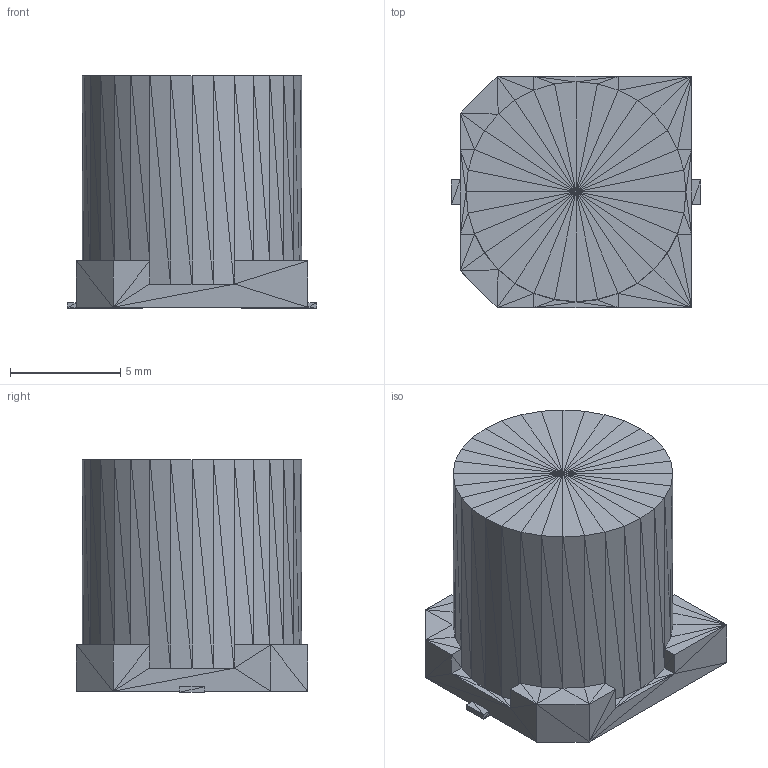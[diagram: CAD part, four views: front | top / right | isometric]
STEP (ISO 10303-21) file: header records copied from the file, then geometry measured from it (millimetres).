
FILE_DESCRIPTION(('STEP AP214'),'1');
FILE_NAME('SM_RADIAL_10BMM','2018-08-04T05:23:23',(''),(''),'','','');
FILE_SCHEMA(('AUTOMOTIVE_DESIGN'));
Length unit declared in the file: millimetre
Products named in the file (1): product
Bounding box: 11.3 x 10.49 x 10.54 mm (x, y, z)
Surface area: 583.5 mm2 (no closed solid volume)
Topology: 0 solids, 230 shells, 230 faces, 690 edges, 690 vertices
Faces by surface type: plane 230
Entity records: 7640 total; most frequent: CARTESIAN_POINT 1611, DIRECTION 1152, ORIENTED_EDGE 690, EDGE_CURVE 690, VERTEX_POINT 690, LINE 690, VECTOR 690, AXIS2_PLACEMENT_3D 231
